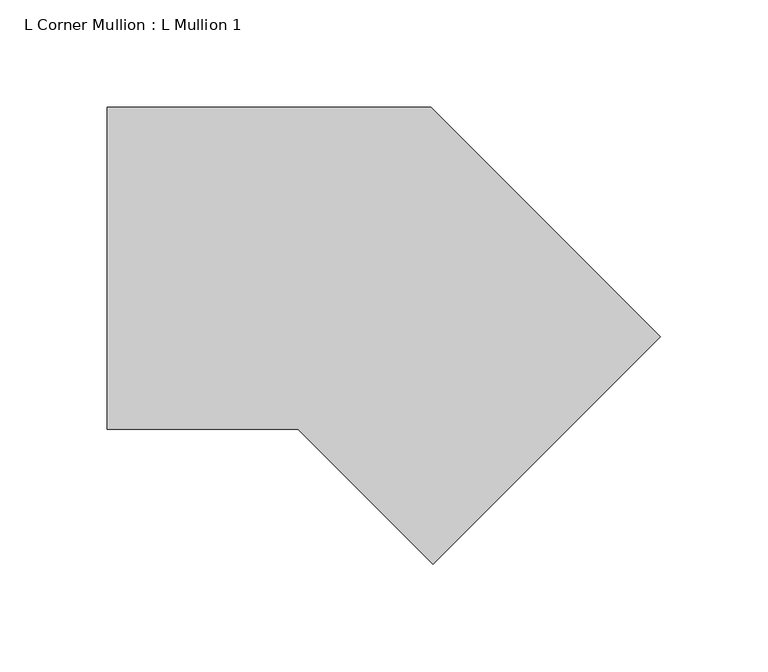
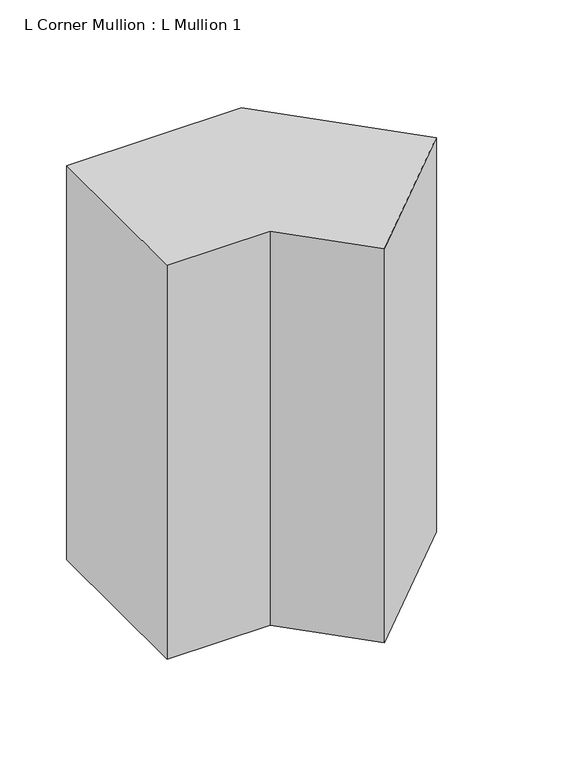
"""IFC4 building model written with IfcOpenShell, lengths in millimetres: member geometry, L Corner Mullion : L Mullion 1."""

from ifc_helpers import new_model, si_unit, frame, origin, place, context, project, spatial, polyline, outline, extrude, source, transform, mapped, element, save


def l_corner_mullion_l_mullion_1_b7400e29(model_context):
    return source(origin(), model_context, "Body", "SweptSolid", [
        extrude(outline(polyline([(20.636039, -164.8858223), (-42.2497834, -102.0), (-131.1837662, -102.0), (-131.1837662, 48.0), (19.882251, 48.0), (126.7020561, -58.8198052), (20.636039, -164.8858223)])), frame((0.0, 0.0, -360.0), z_axis=(0.0, 0.0, 1.0), x_axis=(1.0, 0.0, 0.0)), (0.0, 0.0, 1.0), 360.0),
    ])


if __name__ == "__main__":
    model = new_model("IFC4")
    model_context = context("Model", 3, world=origin())
    ifc_project = project(units=[si_unit("LENGTHUNIT", "METRE", prefix="MILLI")], contexts=[model_context])
    site = spatial("IfcSite", under=ifc_project)
    building = spatial("IfcBuilding", under=site)
    placement = place(None, origin())
    l_corner_mullion_l_mullion_1_shape = l_corner_mullion_l_mullion_1_b7400e29(model_context)
    element("IfcMember", 1, ObjectType="L Corner Mullion : L Mullion 1", at=placement, inside=building, context=model_context, shape_type="MappedRepresentation", body=[
        mapped(l_corner_mullion_l_mullion_1_shape, transform((0.0, 0.0, 0.0), x_axis=(1.0, 0.0, 0.0), y_axis=(0.0, 1.0, 0.0), z_axis=(0.0, 0.0, 1.0))),
    ])
    save(model, "model.ifc")
